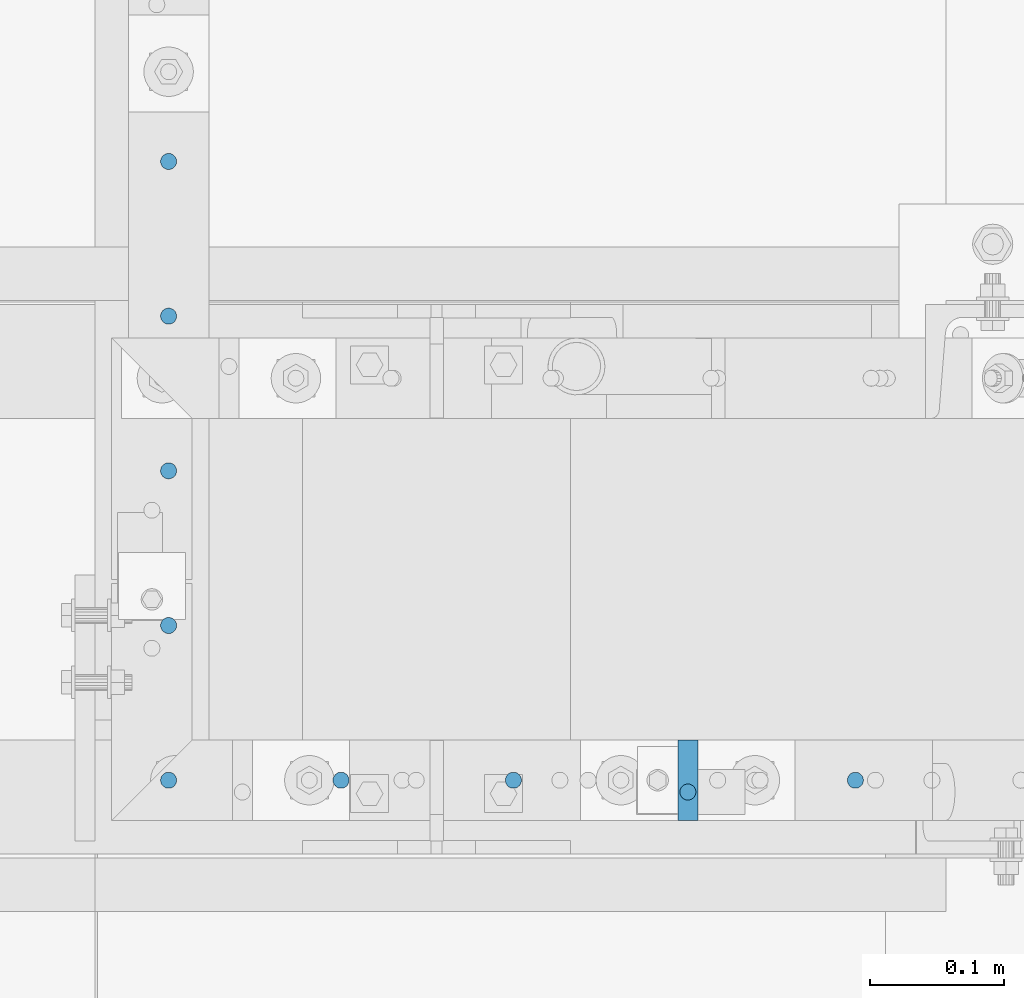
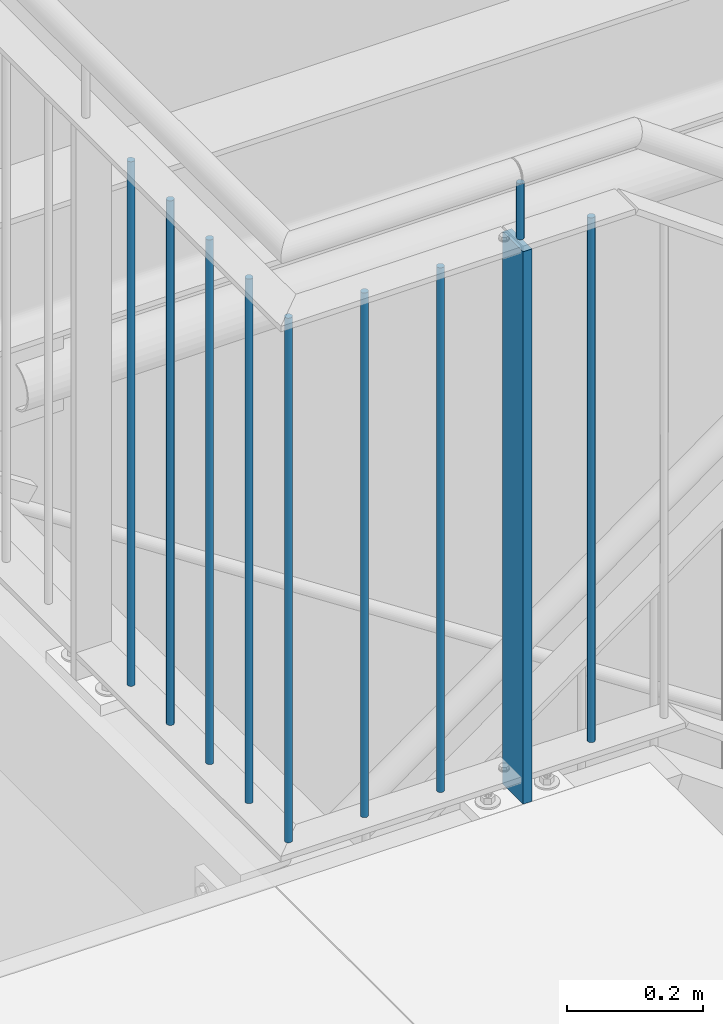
# One storey, part 31 of 821: 10 columns.
"""IFC2X3 building model written with IfcOpenShell, lengths in millimetres."""

from ifc_helpers import new_model, entity, si_unit, converted_unit, frame, origin, origin_with_axes, origin_2d, place, context, project, spatial, rectangle, circle, extrude, clip, halfspace, material, element, save


model = new_model("IFC2X3")

# Units and contexts
model_context = context("Model", 3, precision=1e-09, world=origin_with_axes())
ifc_project = project(units=[si_unit("LENGTHUNIT", "METRE", prefix="MILLI"), si_unit("AREAUNIT", "SQUARE_METRE"), si_unit("VOLUMEUNIT", "CUBIC_METRE"), converted_unit("PLANEANGLEUNIT", "DEGREE", entity("IfcPlaneAngleMeasure", 0.01745329), si_unit("PLANEANGLEUNIT", "RADIAN"), dimensions=[0, 0, 0, 0, 0, 0, 0])], contexts=[model_context])

# Site, building, storey
site_placement = place(None, origin_with_axes())
site = spatial("IfcSite", under=ifc_project, at=site_placement, Name="Cnopf'sche Kinderklinik", CompositionType="ELEMENT")
building_placement = place(site_placement, origin_with_axes())
building = spatial("IfcBuilding", under=site, at=building_placement, Name="Struktur 1", CompositionType="ELEMENT")
storey_placement = place(building_placement, origin_with_axes())
storey = spatial("IfcBuildingStorey", under=building, at=storey_placement, Name="Default Storey", CompositionType="ELEMENT", Elevation=0.0)

# Columns
ifc_material = material(Name="S235JR")
column_1_placement = place(None, frame((5044.213902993, 5791.736971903, 18873.723292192), z_axis=(0.0, 0.0, 1.0), x_axis=(-1.0, 0.0, 0.0)))
element("IfcColumn", 1, at=column_1_placement, inside=storey, material=ifc_material, Name="Railing_Post_Landing#2", ObjectType="Railing_Post_Landing#2", context=model_context, shape_type="Clipping", body=[
    clip(clip(extrude(rectangle(XDim=15.0, YDim=60.0, at=origin_2d()), origin(), (0.0, 0.0, -1.0), 1070.646584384), halfspace(frame((5044.213902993, 5791.736971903, -1019.722292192), z_axis=(0.0, 0.0, 1.0), x_axis=(-1.0, 0.0, 0.0)), True)), halfspace(frame((5044.213902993, 5791.736971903, -30.924292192), z_axis=(0.0, 0.0, -1.0), x_axis=(1.0, 0.0, 0.0)), True)),
])
column_2_placement = place(None, frame((5169.243902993, 5791.736971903, 18842.8), z_axis=(0.0, 0.0, 1.0), x_axis=(-1.0, 0.0, 0.0)))
element("IfcColumn", 2, at=column_2_placement, inside=storey, material=ifc_material, Name="Railing_Picket_Landing#13", ObjectType="Railing_Picket_Landing#13", context=model_context, shape_type="SweptSolid", body=[
    extrude(circle(Radius=6.0, at=origin_2d()), origin(), (0.0, 0.0, -1.0), 938.8),
])
column_3_placement = place(None, frame((4914.047236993, 5791.736971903, 18856.285281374), z_axis=(0.0, 0.0, 1.0), x_axis=(-1.0, 0.0, 0.0)))
element("IfcColumn", 3, at=column_3_placement, inside=storey, material=ifc_material, Name="Railing_Picket_Landing#14", ObjectType="Railing_Picket_Landing#14", context=model_context, shape_type="Clipping", body=[
    clip(clip(extrude(circle(Radius=6.0, at=origin_2d()), origin(), (0.0, 0.0, -1.0), 965.770562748), halfspace(frame((4914.047236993, 5791.736971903, -13.486281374), z_axis=(0.0, 0.0, -1.0), x_axis=(1.0, 0.0, 0.0)), True)), halfspace(frame((4914.047236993, 5791.736971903, -952.284281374), z_axis=(0.0, 0.0, 1.0), x_axis=(-1.0, 0.0, 0.0)), True)),
])
column_4_placement = place(None, frame((4785.380570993, 5791.736971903, 18856.285281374), z_axis=(0.0, 0.0, 1.0), x_axis=(-1.0, 0.0, 0.0)))
element("IfcColumn", 4, at=column_4_placement, inside=storey, material=ifc_material, Name="Railing_Picket_Landing#15", ObjectType="Railing_Picket_Landing#15", context=model_context, shape_type="Clipping", body=[
    clip(clip(extrude(circle(Radius=6.0, at=origin_2d()), origin(), (0.0, 0.0, -1.0), 965.770562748), halfspace(frame((4785.380570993, 5791.736971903, -13.486281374), z_axis=(0.0, 0.0, -1.0), x_axis=(1.0, 0.0, 0.0)), True)), halfspace(frame((4785.380570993, 5791.736971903, -952.284281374), z_axis=(0.0, 0.0, 1.0), x_axis=(-1.0, 0.0, 0.0)), True)),
])
column_5_placement = place(None, frame((4656.713402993, 5791.736971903, 18856.285281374), z_axis=(0.0, 0.0, 1.0), x_axis=(-1.0, 0.0, 0.0)))
element("IfcColumn", 5, at=column_5_placement, inside=storey, material=ifc_material, Name="Railing_Picket_Landing#16", ObjectType="Railing_Picket_Landing#16", context=model_context, shape_type="Clipping", body=[
    clip(clip(extrude(circle(Radius=6.0, at=origin_2d()), origin(), (0.0, 0.0, -1.0), 965.770562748), halfspace(frame((4656.713402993, 5791.736971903, -13.486281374), z_axis=(0.0, 0.0, -1.0), x_axis=(1.0, 0.0, 0.0)), True)), halfspace(frame((4656.713402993, 5791.736971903, -952.284281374), z_axis=(0.0, 0.0, 1.0), x_axis=(-1.0, 0.0, 0.0)), True)),
])
column_6_placement = place(None, frame((4656.713402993, 5907.186721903, 18856.285281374), z_axis=(0.0, 0.0, 1.0), x_axis=(0.0, 1.0, 0.0)))
element("IfcColumn", 6, at=column_6_placement, inside=storey, material=ifc_material, Name="Railing_Picket_Landing#17", ObjectType="Railing_Picket_Landing#17", context=model_context, shape_type="Clipping", body=[
    clip(clip(extrude(circle(Radius=6.0, at=origin_2d()), origin(), (0.0, 0.0, -1.0), 965.770562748), halfspace(frame((-5907.186721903, 4656.713402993, -13.486281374), z_axis=(0.0, 0.0, -1.0), x_axis=(0.0, 1.0, 0.0)), True)), halfspace(frame((-5907.186721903, 4656.713402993, -952.284281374), z_axis=(0.0, 0.0, 1.0), x_axis=(0.0, -1.0, 0.0)), True)),
])
column_7_placement = place(None, frame((4656.713402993, 6022.636721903, 18856.285281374), z_axis=(0.0, 0.0, 1.0), x_axis=(0.0, 1.0, 0.0)))
element("IfcColumn", 7, at=column_7_placement, inside=storey, material=ifc_material, Name="Railing_Picket_Landing#18", ObjectType="Railing_Picket_Landing#18", context=model_context, shape_type="Clipping", body=[
    clip(clip(extrude(circle(Radius=6.0, at=origin_2d()), origin(), (0.0, 0.0, -1.0), 965.770562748), halfspace(frame((-6022.636721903, 4656.713402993, -13.486281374), z_axis=(0.0, 0.0, -1.0), x_axis=(0.0, 1.0, 0.0)), True)), halfspace(frame((-6022.636721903, 4656.713402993, -952.284281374), z_axis=(0.0, 0.0, 1.0), x_axis=(0.0, -1.0, 0.0)), True)),
])
column_8_placement = place(None, frame((4656.713402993, 6138.086721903, 18856.285281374), z_axis=(0.0, 0.0, 1.0), x_axis=(0.0, 1.0, 0.0)))
element("IfcColumn", 8, at=column_8_placement, inside=storey, material=ifc_material, Name="Railing_Picket_Landing#19", ObjectType="Railing_Picket_Landing#19", context=model_context, shape_type="Clipping", body=[
    clip(clip(extrude(circle(Radius=6.0, at=origin_2d()), origin(), (0.0, 0.0, -1.0), 965.770562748), halfspace(frame((-6138.086721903, 4656.713402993, -13.486281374), z_axis=(0.0, 0.0, -1.0), x_axis=(0.0, 1.0, 0.0)), True)), halfspace(frame((-6138.086721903, 4656.713402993, -952.284281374), z_axis=(0.0, 0.0, 1.0), x_axis=(0.0, -1.0, 0.0)), True)),
])
column_9_placement = place(None, frame((4656.713402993, 6253.536721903, 18856.285281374), z_axis=(0.0, 0.0, 1.0), x_axis=(0.0, 1.0, 0.0)))
element("IfcColumn", 9, at=column_9_placement, inside=storey, material=ifc_material, Name="Railing_Picket_Landing#20", ObjectType="Railing_Picket_Landing#20", context=model_context, shape_type="Clipping", body=[
    clip(clip(extrude(circle(Radius=6.0, at=origin_2d()), origin(), (0.0, 0.0, -1.0), 965.770562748), halfspace(frame((-6253.536721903, 4656.713402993, -13.486281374), z_axis=(0.0, 0.0, -1.0), x_axis=(0.0, 1.0, 0.0)), True)), halfspace(frame((-6253.536721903, 4656.713402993, -952.284281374), z_axis=(0.0, 0.0, 1.0), x_axis=(0.0, -1.0, 0.0)), True)),
])
column_10_placement = place(None, frame((5044.213902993, 5782.936971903, 18961.285281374), z_axis=(0.0, 0.0, 1.0), x_axis=(0.0, 1.0, 0.0)))
element("IfcColumn", 10, at=column_10_placement, inside=storey, material=ifc_material, Name="Bar#2", ObjectType="Bar#2", context=model_context, shape_type="Clipping", body=[
    clip(clip(extrude(circle(Radius=6.0, at=origin_2d()), origin(), (0.0, 0.0, -1.0), 116.970562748), halfspace(frame((-5782.936971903, 5044.213902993, -8.486281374), z_axis=(0.0, 0.0, -1.0), x_axis=(0.0, 1.0, 0.0)), True)), halfspace(frame((-5782.936971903, 5044.213902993, -108.484281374), z_axis=(0.0, 0.0, 1.0), x_axis=(0.0, -1.0, 0.0)), True)),
])

save(model, "model.ifc")
